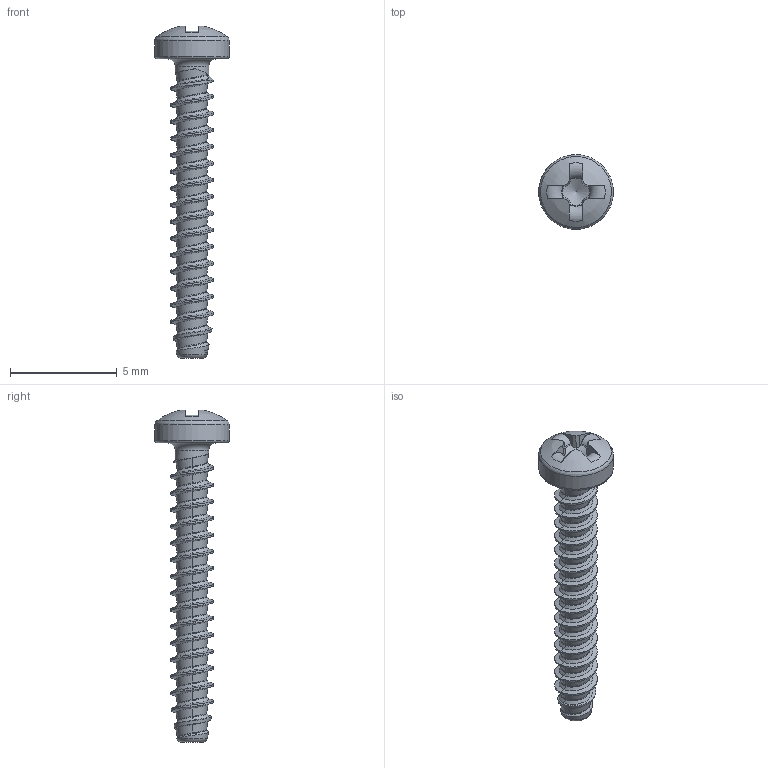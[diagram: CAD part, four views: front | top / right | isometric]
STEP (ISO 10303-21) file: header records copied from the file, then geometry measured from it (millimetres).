
FILE_DESCRIPTION(/* description */ (''),/* implementation_level */ '2;1');
FILE_NAME(/* name */ 'KN6032-STSplus-20x14-H1.step',/* time_stamp */ '2017-10-10T14:55:14+02:00',/* author */ (''),/* organization */ (''),/* preprocessor_version */ 'ST-DEVELOPER v16',/* originating_system */ 'SIEMENS PLM Software NX 10.0',/* authorisation */ '');
FILE_SCHEMA (('AUTOMOTIVE_DESIGN { 1 0 10303 214 3 1 1 1 }'));
Length unit declared in the file: millimetre
Products named in the file (1): KN6032-STSplus-20x14-H1
Bounding box: 3.5 x 3.5 x 15.54 mm (x, y, z)
Volume: 38.1 mm3; surface area: 133.1 mm2
Topology: 1 solids, 1 shells, 110 faces, 287 edges, 179 vertices
Faces by surface type: bspline 72, plane 18, torus 8, cone 7, cylinder 4, sphere 1
Full cylindrical faces by diameter (mm): 1.58 x1, 3.5 x1
Entity records: 7707 total; most frequent: CARTESIAN_POINT 5561, ORIENTED_EDGE 546, EDGE_CURVE 273, DIRECTION 236, VERTEX_POINT 174, B_SPLINE_CURVE_WITH_KNOTS 154, EDGE_LOOP 118, ADVANCED_FACE 110
